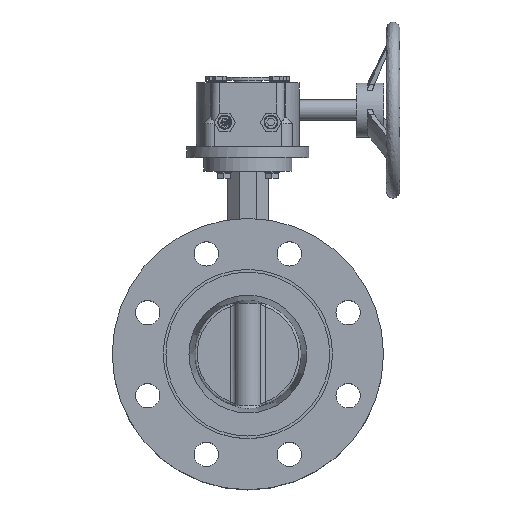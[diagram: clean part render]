
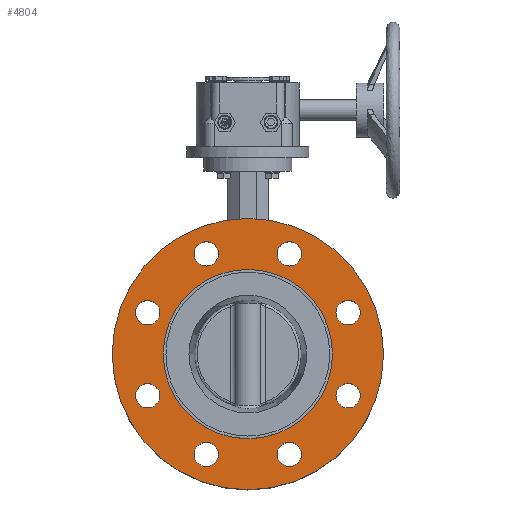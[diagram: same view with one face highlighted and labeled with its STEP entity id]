
A CAD part, top view. The second image highlights one B-rep face of the part: STEP entity #4804.
In plain terms, the highlighted planar face has unit normal (0, 0, -1).
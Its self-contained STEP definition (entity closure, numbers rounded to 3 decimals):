
#53 = VERTEX_POINT ( 'NONE', #7074 ) ;
#199 = ORIENTED_EDGE ( 'NONE', *, *, #23815, .F. ) ;
#484 = CIRCLE ( 'NONE', #38160, 9. ) ;
#739 = VERTEX_POINT ( 'NONE', #21556 ) ;
#805 = EDGE_LOOP ( 'NONE', ( #27913 ) ) ;
#1059 = EDGE_CURVE ( 'NONE', #33608, #33608, #6285, .T. ) ;
#1131 = DIRECTION ( 'NONE',  ( 0., 0., -1. ) ) ;
#1735 = CARTESIAN_POINT ( 'NONE',  ( -123.728, -1.593, 54. ) ) ;
#2635 = EDGE_CURVE ( 'NONE', #16368, #16368, #5593, .T. ) ;
#3052 = AXIS2_PLACEMENT_3D ( 'NONE', #39993, #15235, #36326 ) ;
#3212 = VERTEX_POINT ( 'NONE', #13646 ) ;
#3653 = VERTEX_POINT ( 'NONE', #24709 ) ;
#3654 = DIRECTION ( 'NONE',  ( 1., 0., 0. ) ) ;
#3922 = EDGE_LOOP ( 'NONE', ( #12055 ) ) ;
#4382 = EDGE_CURVE ( 'NONE', #3212, #3212, #10965, .T. ) ;
#4410 = DIRECTION ( 'NONE',  ( 0., 0., -1. ) ) ;
#4755 = CIRCLE ( 'NONE', #10527, 9. ) ;
#4781 = CARTESIAN_POINT ( 'NONE',  ( -88.638, 29.022, 54. ) ) ;
#4804 = ADVANCED_FACE ( 'NONE', ( #24624, #38506, #32293, #28872, #15061, #40690, #22975, #43869, #9570, #37279 ), #20020, .T. ) ;
#5593 = CIRCLE ( 'NONE', #43256, 62.4 ) ;
#6066 = CIRCLE ( 'NONE', #24143, 9. ) ;
#6285 = CIRCLE ( 'NONE', #20721, 100. ) ;
#6408 = DIRECTION ( 'NONE',  ( -1., 0., 0. ) ) ;
#6561 = DIRECTION ( 'NONE',  ( 0., 0., -1. ) ) ;
#6609 = CARTESIAN_POINT ( 'NONE',  ( -45.343, 72.317, 54. ) ) ;
#7074 = CARTESIAN_POINT ( 'NONE',  ( -88.638, -32.208, 54. ) ) ;
#7606 = DIRECTION ( 'NONE',  ( 1., 0., 0. ) ) ;
#8223 = ORIENTED_EDGE ( 'NONE', *, *, #1059, .T. ) ;
#9570 = FACE_OUTER_BOUND ( 'NONE', #43157, .T. ) ;
#9961 = EDGE_CURVE ( 'NONE', #37699, #37699, #42237, .T. ) ;
#10220 = CARTESIAN_POINT ( 'NONE',  ( 50.182, 29.022, 54. ) ) ;
#10527 = AXIS2_PLACEMENT_3D ( 'NONE', #31643, #4410, #7606 ) ;
#10965 = CIRCLE ( 'NONE', #42164, 9. ) ;
#11052 = DIRECTION ( 'NONE',  ( 1., 0., 0. ) ) ;
#11514 = CARTESIAN_POINT ( 'NONE',  ( 6.887, 72.317, 54. ) ) ;
#12022 = VERTEX_POINT ( 'NONE', #42899 ) ;
#12055 = ORIENTED_EDGE ( 'NONE', *, *, #17847, .F. ) ;
#12767 = CARTESIAN_POINT ( 'NONE',  ( -23.728, -1.593, 54. ) ) ;
#13002 = CARTESIAN_POINT ( 'NONE',  ( -86.128, -1.593, 54. ) ) ;
#13051 = DIRECTION ( 'NONE',  ( 0., 0., -1. ) ) ;
#13646 = CARTESIAN_POINT ( 'NONE',  ( -45.343, -75.503, 54. ) ) ;
#14015 = EDGE_LOOP ( 'NONE', ( #199 ) ) ;
#15061 = FACE_BOUND ( 'NONE', #23806, .T. ) ;
#15235 = DIRECTION ( 'NONE',  ( 0., 0., -1. ) ) ;
#15317 = EDGE_LOOP ( 'NONE', ( #33921 ) ) ;
#15458 = DIRECTION ( 'NONE',  ( 0., 0., -1. ) ) ;
#15750 = AXIS2_PLACEMENT_3D ( 'NONE', #11514, #1131, #11052 ) ;
#16100 = EDGE_CURVE ( 'NONE', #739, #739, #43310, .T. ) ;
#16368 = VERTEX_POINT ( 'NONE', #20002 ) ;
#16994 = CIRCLE ( 'NONE', #32209, 9. ) ;
#17270 = VERTEX_POINT ( 'NONE', #34501 ) ;
#17847 = EDGE_CURVE ( 'NONE', #3653, #3653, #16994, .T. ) ;
#17947 = EDGE_LOOP ( 'NONE', ( #38469 ) ) ;
#18401 = VERTEX_POINT ( 'NONE', #4781 ) ;
#19459 = EDGE_CURVE ( 'NONE', #17270, #17270, #38345, .T. ) ;
#20002 = CARTESIAN_POINT ( 'NONE',  ( -86.128, -1.593, 54. ) ) ;
#20020 = PLANE ( 'NONE',  #38529 ) ;
#20721 = AXIS2_PLACEMENT_3D ( 'NONE', #35873, #42710, #39086 ) ;
#21095 = DIRECTION ( 'NONE',  ( 0., 0., -1. ) ) ;
#21556 = CARTESIAN_POINT ( 'NONE',  ( 15.887, 72.317, 54. ) ) ;
#22975 = FACE_BOUND ( 'NONE', #30051, .T. ) ;
#23806 = EDGE_LOOP ( 'NONE', ( #37679 ) ) ;
#23811 = DIRECTION ( 'NONE',  ( 0., 0., 1. ) ) ;
#23815 = EDGE_CURVE ( 'NONE', #53, #53, #6066, .T. ) ;
#24141 = ORIENTED_EDGE ( 'NONE', *, *, #9961, .F. ) ;
#24143 = AXIS2_PLACEMENT_3D ( 'NONE', #29293, #15458, #43169 ) ;
#24624 = FACE_BOUND ( 'NONE', #15317, .T. ) ;
#24709 = CARTESIAN_POINT ( 'NONE',  ( 15.887, -75.503, 54. ) ) ;
#26636 = DIRECTION ( 'NONE',  ( 1., 0., 0. ) ) ;
#26868 = EDGE_LOOP ( 'NONE', ( #36879 ) ) ;
#27913 = ORIENTED_EDGE ( 'NONE', *, *, #29622, .F. ) ;
#28872 = FACE_BOUND ( 'NONE', #14015, .T. ) ;
#29293 = CARTESIAN_POINT ( 'NONE',  ( -97.638, -32.208, 54. ) ) ;
#29622 = EDGE_CURVE ( 'NONE', #12022, #12022, #484, .T. ) ;
#30051 = EDGE_LOOP ( 'NONE', ( #30267 ) ) ;
#30267 = ORIENTED_EDGE ( 'NONE', *, *, #19459, .F. ) ;
#31643 = CARTESIAN_POINT ( 'NONE',  ( -97.638, 29.022, 54. ) ) ;
#32209 = AXIS2_PLACEMENT_3D ( 'NONE', #40621, #6561, #44230 ) ;
#32293 = FACE_BOUND ( 'NONE', #17947, .T. ) ;
#32482 = EDGE_LOOP ( 'NONE', ( #24141 ) ) ;
#33608 = VERTEX_POINT ( 'NONE', #1735 ) ;
#33851 = DIRECTION ( 'NONE',  ( -1., 0., 0. ) ) ;
#33921 = ORIENTED_EDGE ( 'NONE', *, *, #16100, .F. ) ;
#34116 = CARTESIAN_POINT ( 'NONE',  ( 50.182, -32.208, 54. ) ) ;
#34119 = CARTESIAN_POINT ( 'NONE',  ( -54.343, -75.503, 54. ) ) ;
#34343 = DIRECTION ( 'NONE',  ( 1., 0., 0. ) ) ;
#34501 = CARTESIAN_POINT ( 'NONE',  ( 59.182, -32.208, 54. ) ) ;
#35435 = AXIS2_PLACEMENT_3D ( 'NONE', #34116, #13051, #34343 ) ;
#35873 = CARTESIAN_POINT ( 'NONE',  ( -23.728, -1.593, 54. ) ) ;
#36326 = DIRECTION ( 'NONE',  ( 1., 0., 0. ) ) ;
#36839 = DIRECTION ( 'NONE',  ( 0., 0., -1. ) ) ;
#36879 = ORIENTED_EDGE ( 'NONE', *, *, #2635, .T. ) ;
#37279 = FACE_BOUND ( 'NONE', #26868, .T. ) ;
#37494 = EDGE_CURVE ( 'NONE', #18401, #18401, #4755, .T. ) ;
#37679 = ORIENTED_EDGE ( 'NONE', *, *, #4382, .F. ) ;
#37699 = VERTEX_POINT ( 'NONE', #6609 ) ;
#38160 = AXIS2_PLACEMENT_3D ( 'NONE', #10220, #21095, #3654 ) ;
#38345 = CIRCLE ( 'NONE', #35435, 9. ) ;
#38469 = ORIENTED_EDGE ( 'NONE', *, *, #37494, .F. ) ;
#38506 = FACE_BOUND ( 'NONE', #32482, .T. ) ;
#38529 = AXIS2_PLACEMENT_3D ( 'NONE', #13002, #36839, #33851 ) ;
#39086 = DIRECTION ( 'NONE',  ( -1., 0., 0. ) ) ;
#39993 = CARTESIAN_POINT ( 'NONE',  ( -54.343, 72.317, 54. ) ) ;
#40621 = CARTESIAN_POINT ( 'NONE',  ( 6.887, -75.503, 54. ) ) ;
#40690 = FACE_BOUND ( 'NONE', #3922, .T. ) ;
#42164 = AXIS2_PLACEMENT_3D ( 'NONE', #34119, #44589, #26636 ) ;
#42237 = CIRCLE ( 'NONE', #3052, 9. ) ;
#42710 = DIRECTION ( 'NONE',  ( 0., 0., -1. ) ) ;
#42899 = CARTESIAN_POINT ( 'NONE',  ( 59.182, 29.022, 54. ) ) ;
#43157 = EDGE_LOOP ( 'NONE', ( #8223 ) ) ;
#43169 = DIRECTION ( 'NONE',  ( 1., 0., 0. ) ) ;
#43256 = AXIS2_PLACEMENT_3D ( 'NONE', #12767, #23811, #6408 ) ;
#43310 = CIRCLE ( 'NONE', #15750, 9. ) ;
#43869 = FACE_BOUND ( 'NONE', #805, .T. ) ;
#44230 = DIRECTION ( 'NONE',  ( 1., 0., 0. ) ) ;
#44589 = DIRECTION ( 'NONE',  ( 0., 0., -1. ) ) ;
